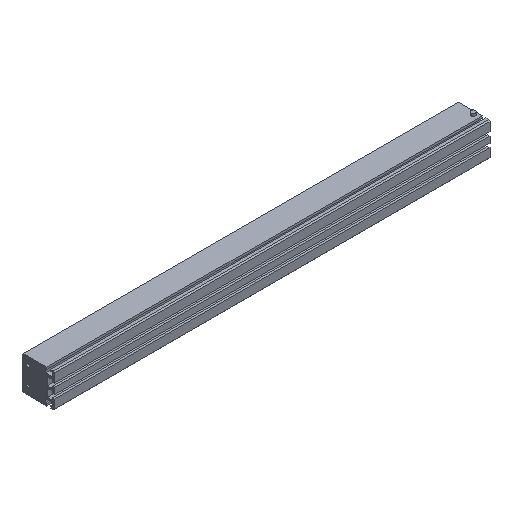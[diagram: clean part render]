
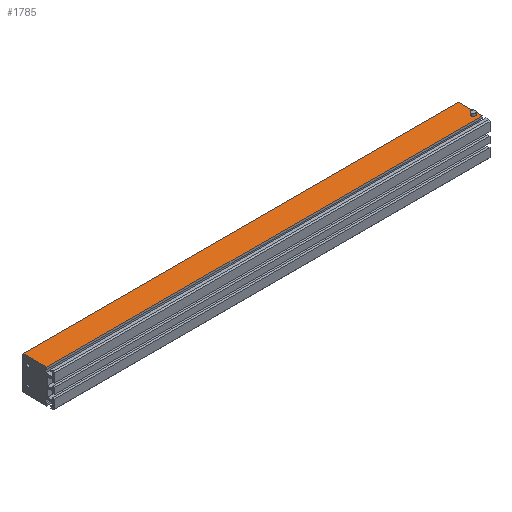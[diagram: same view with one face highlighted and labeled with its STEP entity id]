
A CAD part, isometric view. The second image highlights one B-rep face of the part: STEP entity #1785.
In plain terms, the highlighted planar face has unit normal (0, 0, 1).
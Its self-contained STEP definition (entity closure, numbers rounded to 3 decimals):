
#17 = CARTESIAN_POINT ( 'NONE',  ( 365.3, 11.392, 0. ) ) ;
#34 = CARTESIAN_POINT ( 'NONE',  ( 0., 26.7, 0. ) ) ;
#40 = DIRECTION ( 'NONE',  ( 0., -1., 0. ) ) ;
#49 = DIRECTION ( 'NONE',  ( 0., 0., -1. ) ) ;
#128 = FACE_BOUND ( 'NONE', #1652, .T. ) ;
#208 = CARTESIAN_POINT ( 'NONE',  ( 369., 11.392, 0. ) ) ;
#259 = CARTESIAN_POINT ( 'NONE',  ( 370., 26.7, 0. ) ) ;
#283 = DIRECTION ( 'NONE',  ( -1., 0., 0. ) ) ;
#323 = CARTESIAN_POINT ( 'NONE',  ( 370., 6.6, 0. ) ) ;
#486 = VERTEX_POINT ( 'NONE', #1428 ) ;
#499 = VECTOR ( 'NONE', #40, 1000. ) ;
#551 = LINE ( 'NONE', #1855, #1283 ) ;
#632 = AXIS2_PLACEMENT_3D ( 'NONE', #1899, #1877, #1097 ) ;
#682 = LINE ( 'NONE', #1468, #1226 ) ;
#694 = DIRECTION ( 'NONE',  ( 0., -1., 0. ) ) ;
#725 = ORIENTED_EDGE ( 'NONE', *, *, #1318, .T. ) ;
#796 = LINE ( 'NONE', #1914, #1685 ) ;
#850 = VERTEX_POINT ( 'NONE', #259 ) ;
#859 = ORIENTED_EDGE ( 'NONE', *, *, #1713, .F. ) ;
#975 = EDGE_CURVE ( 'NONE', #1199, #1215, #1999, .T. ) ;
#1022 = ORIENTED_EDGE ( 'NONE', *, *, #1801, .F. ) ;
#1094 = VERTEX_POINT ( 'NONE', #323 ) ;
#1097 = DIRECTION ( 'NONE',  ( -1., 0., 0. ) ) ;
#1128 = CARTESIAN_POINT ( 'NONE',  ( 370., 0., 0. ) ) ;
#1168 = EDGE_LOOP ( 'NONE', ( #1022, #1308, #725, #1984 ) ) ;
#1172 = EDGE_CURVE ( 'NONE', #486, #1094, #796, .T. ) ;
#1176 = LINE ( 'NONE', #1782, #499 ) ;
#1199 = VERTEX_POINT ( 'NONE', #208 ) ;
#1208 = VERTEX_POINT ( 'NONE', #34 ) ;
#1215 = VERTEX_POINT ( 'NONE', #17 ) ;
#1226 = VECTOR ( 'NONE', #694, 1000. ) ;
#1283 = VECTOR ( 'NONE', #283, 1000. ) ;
#1293 = DIRECTION ( 'NONE',  ( -1., 0., 0. ) ) ;
#1308 = ORIENTED_EDGE ( 'NONE', *, *, #1462, .T. ) ;
#1318 = EDGE_CURVE ( 'NONE', #1208, #486, #682, .T. ) ;
#1328 = FACE_OUTER_BOUND ( 'NONE', #1168, .T. ) ;
#1371 = CIRCLE ( 'NONE', #632, 1.85 ) ;
#1428 = CARTESIAN_POINT ( 'NONE',  ( 0., 6.6, 0. ) ) ;
#1462 = EDGE_CURVE ( 'NONE', #850, #1208, #551, .T. ) ;
#1468 = CARTESIAN_POINT ( 'NONE',  ( 0., 0., 0. ) ) ;
#1616 = AXIS2_PLACEMENT_3D ( 'NONE', #1797, #1963, #1949 ) ;
#1652 = EDGE_LOOP ( 'NONE', ( #859, #1850 ) ) ;
#1685 = VECTOR ( 'NONE', #1775, 1000. ) ;
#1713 = EDGE_CURVE ( 'NONE', #1215, #1199, #1371, .T. ) ;
#1773 = PLANE ( 'NONE',  #1830 ) ;
#1775 = DIRECTION ( 'NONE',  ( 1., 0., 0. ) ) ;
#1782 = CARTESIAN_POINT ( 'NONE',  ( 370., 0., 0. ) ) ;
#1785 = ADVANCED_FACE ( 'NONE', ( #128, #1328 ), #1773, .F. ) ;
#1797 = CARTESIAN_POINT ( 'NONE',  ( 367.15, 11.392, 0. ) ) ;
#1801 = EDGE_CURVE ( 'NONE', #850, #1094, #1176, .T. ) ;
#1830 = AXIS2_PLACEMENT_3D ( 'NONE', #1128, #49, #1293 ) ;
#1850 = ORIENTED_EDGE ( 'NONE', *, *, #975, .F. ) ;
#1855 = CARTESIAN_POINT ( 'NONE',  ( 370., 26.7, 0. ) ) ;
#1877 = DIRECTION ( 'NONE',  ( 0., 0., 1. ) ) ;
#1899 = CARTESIAN_POINT ( 'NONE',  ( 367.15, 11.392, 0. ) ) ;
#1914 = CARTESIAN_POINT ( 'NONE',  ( 0., 6.6, 0. ) ) ;
#1949 = DIRECTION ( 'NONE',  ( -1., 0., 0. ) ) ;
#1963 = DIRECTION ( 'NONE',  ( 0., 0., 1. ) ) ;
#1984 = ORIENTED_EDGE ( 'NONE', *, *, #1172, .T. ) ;
#1999 = CIRCLE ( 'NONE', #1616, 1.85 ) ;
